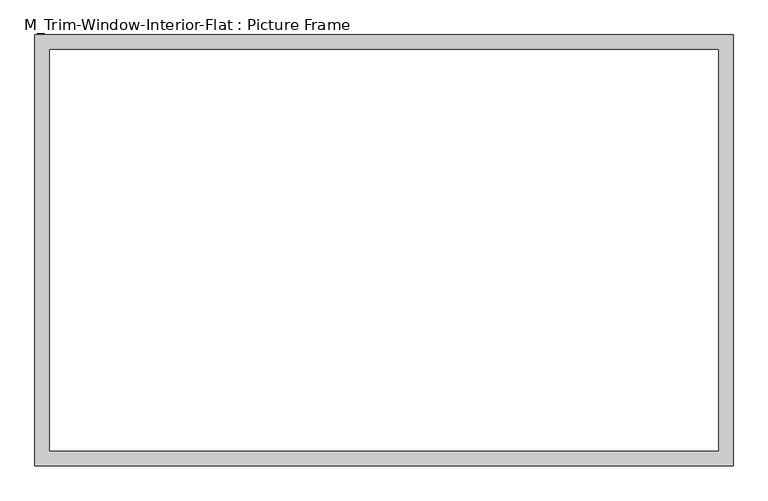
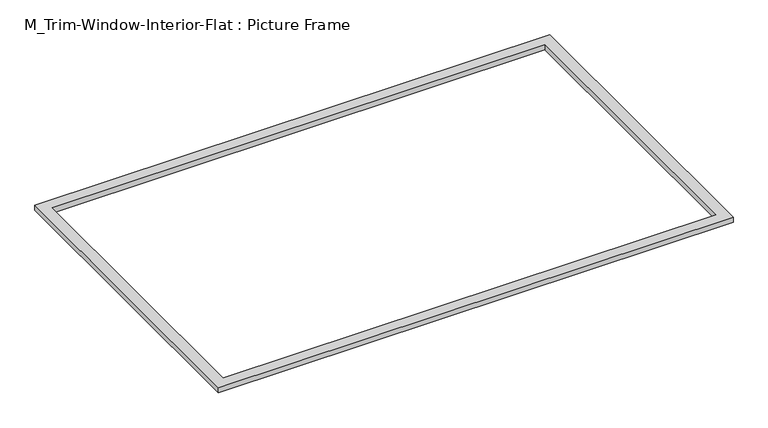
"""IFC4 building model written with IfcOpenShell, lengths in millimetres: proxy geometry, M_Trim-Window-Interior-Flat : Picture Frame."""

from ifc_helpers import new_model, si_unit, origin, origin_with_axes, place, context, project, spatial, polyline, outline, extrude, source, transform, mapped, element, save


def m_trim_window_interior_flat_picture_frame_d8e54864(model_context):
    return source(origin(), model_context, "Body", "SweptSolid", [
        extrude(outline(polyline([(1411.6976563, 47.3), (1411.6976563, -1697.3), (-1411.6976562, -1697.3), (-1411.6976562, 47.3), (1411.6976563, 47.3)]), holes=[polyline([(1351.6976563, -12.7), (-1351.6976562, -12.7), (-1351.6976562, -1637.3), (1351.6976563, -1637.3), (1351.6976563, -12.7)])]), origin_with_axes(), (0.0, 0.0, 1.0), 30.0),
    ])


if __name__ == "__main__":
    model = new_model("IFC4")
    model_context = context("Model", 3, world=origin())
    ifc_project = project(units=[si_unit("LENGTHUNIT", "METRE", prefix="MILLI")], contexts=[model_context])
    site = spatial("IfcSite", under=ifc_project)
    building = spatial("IfcBuilding", under=site)
    placement = place(None, origin())
    m_trim_window_interior_flat_picture_frame_shape = m_trim_window_interior_flat_picture_frame_d8e54864(model_context)
    element("IfcBuildingElementProxy", 1, Name="M_Trim-Window-Interior-Flat : Picture Frame", ObjectType="M_Trim-Window-Interior-Flat : Picture Frame", at=placement, inside=building, context=model_context, shape_type="MappedRepresentation", body=[
        mapped(m_trim_window_interior_flat_picture_frame_shape, transform((0.0, 0.0, 0.0), x_axis=(1.0, 0.0, 0.0), y_axis=(0.0, 1.0, 0.0), z_axis=(0.0, 0.0, 1.0))),
    ])
    save(model, "model.ifc")
